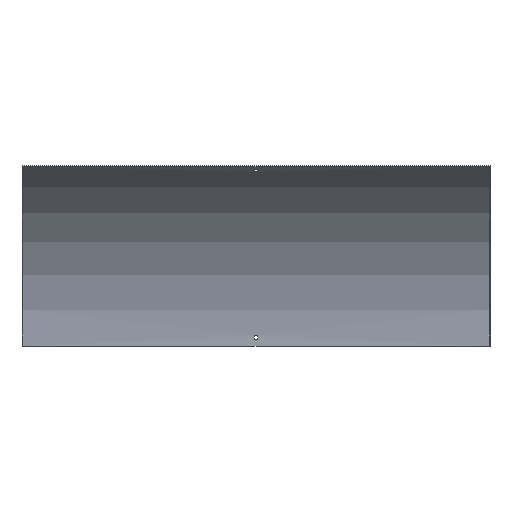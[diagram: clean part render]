
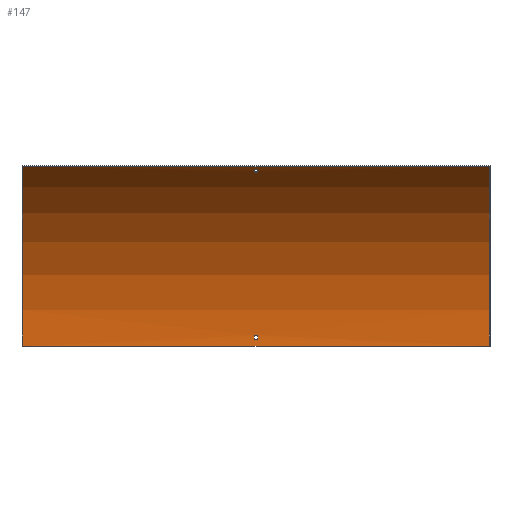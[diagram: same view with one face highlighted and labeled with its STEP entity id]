
A CAD part, front view. The second image highlights one B-rep face of the part: STEP entity #147.
In plain terms, the highlighted cylindrical face has radius 400 mm (diameter 800 mm), a partial arc.
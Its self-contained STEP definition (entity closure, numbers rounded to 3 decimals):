
#5 = EDGE_CURVE ( 'NONE', #208, #509, #144, .T. ) ;
#9 = EDGE_LOOP ( 'NONE', ( #471, #71, #175, #35 ) ) ;
#14 = EDGE_CURVE ( 'NONE', #507, #57, #248, .T. ) ;
#16 = EDGE_CURVE ( 'NONE', #316, #131, #286, .T. ) ;
#26 = DIRECTION ( 'NONE',  ( 0., 0., 1. ) ) ;
#32 = CARTESIAN_POINT ( 'NONE',  ( 451.5, -1.68, 12. ) ) ;
#35 = ORIENTED_EDGE ( 'NONE', *, *, #606, .T. ) ;
#41 = VERTEX_POINT ( 'NONE', #258 ) ;
#57 = VERTEX_POINT ( 'NONE', #296 ) ;
#64 = LINE ( 'NONE', #335, #578 ) ;
#66 = CARTESIAN_POINT ( 'NONE',  ( 3.25, -183.589, 335.432 ) ) ;
#70 = AXIS2_PLACEMENT_3D ( 'NONE', #528, #290, #427 ) ;
#71 = ORIENTED_EDGE ( 'NONE', *, *, #16, .F. ) ;
#73 = CARTESIAN_POINT ( 'NONE',  ( 3.25, -2.052, 21. ) ) ;
#77 = CARTESIAN_POINT ( 'NONE',  ( 3.25, -401.5, 0. ) ) ;
#91 = VECTOR ( 'NONE', #426, 1000. ) ;
#95 = DIRECTION ( 'NONE',  ( 0., 0., -1. ) ) ;
#100 = FACE_BOUND ( 'NONE', #565, .T. ) ;
#102 = EDGE_CURVE ( 'NONE', #515, #485, #64, .T. ) ;
#120 = AXIS2_PLACEMENT_3D ( 'NONE', #349, #453, #497 ) ;
#127 = CARTESIAN_POINT ( 'NONE',  ( -3.25, -191.198, 340.254 ) ) ;
#131 = VERTEX_POINT ( 'NONE', #577 ) ;
#132 = EDGE_CURVE ( 'NONE', #131, #262, #591, .T. ) ;
#138 = AXIS2_PLACEMENT_3D ( 'NONE', #167, #161, #256 ) ;
#144 = LINE ( 'NONE', #277, #356 ) ;
#147 = ADVANCED_FACE ( 'NONE', ( #516, #522, #100 ), #245, .F. ) ;
#153 = CARTESIAN_POINT ( 'NONE',  ( -450., -401.5, 0. ) ) ;
#160 = ORIENTED_EDGE ( 'NONE', *, *, #604, .F. ) ;
#161 = DIRECTION ( 'NONE',  ( 1., 0., 0. ) ) ;
#165 = EDGE_CURVE ( 'NONE', #41, #272, #482, .T. ) ;
#166 = ORIENTED_EDGE ( 'NONE', *, *, #102, .F. ) ;
#167 = CARTESIAN_POINT ( 'NONE',  ( -3.25, -401.5, 0. ) ) ;
#171 = AXIS2_PLACEMENT_3D ( 'NONE', #77, #341, #393 ) ;
#175 = ORIENTED_EDGE ( 'NONE', *, *, #303, .T. ) ;
#177 = EDGE_CURVE ( 'NONE', #509, #507, #374, .T. ) ;
#196 = DIRECTION ( 'NONE',  ( 1., 0., 0. ) ) ;
#198 = CARTESIAN_POINT ( 'NONE',  ( 450., -1.5, 0. ) ) ;
#207 = CARTESIAN_POINT ( 'NONE',  ( 3.25, -191.198, 340.254 ) ) ;
#208 = VERTEX_POINT ( 'NONE', #127 ) ;
#212 = EDGE_CURVE ( 'NONE', #485, #41, #494, .T. ) ;
#215 = EDGE_CURVE ( 'NONE', #57, #208, #444, .T. ) ;
#219 = CARTESIAN_POINT ( 'NONE',  ( 450., -201.5, 346.41 ) ) ;
#227 = ORIENTED_EDGE ( 'NONE', *, *, #14, .T. ) ;
#228 = VECTOR ( 'NONE', #352, 1000. ) ;
#231 = CARTESIAN_POINT ( 'NONE',  ( -450., -201.5, 346.41 ) ) ;
#237 = DIRECTION ( 'NONE',  ( 0., 0., -1. ) ) ;
#245 = CYLINDRICAL_SURFACE ( 'NONE', #70, 400. ) ;
#248 = LINE ( 'NONE', #559, #91 ) ;
#250 = DIRECTION ( 'NONE',  ( 1., 0., 0. ) ) ;
#256 = DIRECTION ( 'NONE',  ( 0., 1., 0. ) ) ;
#258 = CARTESIAN_POINT ( 'NONE',  ( -3.25, -1.68, 12. ) ) ;
#262 = VERTEX_POINT ( 'NONE', #231 ) ;
#268 = ORIENTED_EDGE ( 'NONE', *, *, #212, .F. ) ;
#272 = VERTEX_POINT ( 'NONE', #549 ) ;
#277 = CARTESIAN_POINT ( 'NONE',  ( 451.5, -191.198, 340.254 ) ) ;
#286 = LINE ( 'NONE', #198, #369 ) ;
#289 = DIRECTION ( 'NONE',  ( 1., 0., 0. ) ) ;
#290 = DIRECTION ( 'NONE',  ( -1., 0., 0. ) ) ;
#296 = CARTESIAN_POINT ( 'NONE',  ( -3.25, -183.589, 335.432 ) ) ;
#303 = EDGE_CURVE ( 'NONE', #316, #363, #484, .T. ) ;
#316 = VERTEX_POINT ( 'NONE', #477 ) ;
#326 = EDGE_LOOP ( 'NONE', ( #268, #166, #160, #359 ) ) ;
#335 = CARTESIAN_POINT ( 'NONE',  ( 451.5, -2.052, 21. ) ) ;
#341 = DIRECTION ( 'NONE',  ( 1., 0., 0. ) ) ;
#349 = CARTESIAN_POINT ( 'NONE',  ( -3.25, -401.5, 0. ) ) ;
#352 = DIRECTION ( 'NONE',  ( 1., 0., 0. ) ) ;
#354 = AXIS2_PLACEMENT_3D ( 'NONE', #514, #250, #95 ) ;
#356 = VECTOR ( 'NONE', #289, 1000. ) ;
#359 = ORIENTED_EDGE ( 'NONE', *, *, #165, .F. ) ;
#362 = ORIENTED_EDGE ( 'NONE', *, *, #177, .T. ) ;
#363 = VERTEX_POINT ( 'NONE', #555 ) ;
#369 = VECTOR ( 'NONE', #378, 1000. ) ;
#374 = CIRCLE ( 'NONE', #434, 400. ) ;
#378 = DIRECTION ( 'NONE',  ( -1., 0., 0. ) ) ;
#393 = DIRECTION ( 'NONE',  ( 0., 0., -1. ) ) ;
#396 = AXIS2_PLACEMENT_3D ( 'NONE', #153, #196, #237 ) ;
#397 = CARTESIAN_POINT ( 'NONE',  ( 3.25, -401.5, 0. ) ) ;
#402 = DIRECTION ( 'NONE',  ( -1., 0., 0. ) ) ;
#416 = ORIENTED_EDGE ( 'NONE', *, *, #215, .T. ) ;
#424 = CARTESIAN_POINT ( 'NONE',  ( -3.25, -2.052, 21. ) ) ;
#426 = DIRECTION ( 'NONE',  ( -1., 0., 0. ) ) ;
#427 = DIRECTION ( 'NONE',  ( 0., 0., 1. ) ) ;
#434 = AXIS2_PLACEMENT_3D ( 'NONE', #397, #500, #26 ) ;
#435 = DIRECTION ( 'NONE',  ( -1., 0., 0. ) ) ;
#444 = CIRCLE ( 'NONE', #138, 400. ) ;
#453 = DIRECTION ( 'NONE',  ( -1., 0., 0. ) ) ;
#468 = VECTOR ( 'NONE', #402, 1000. ) ;
#471 = ORIENTED_EDGE ( 'NONE', *, *, #132, .F. ) ;
#477 = CARTESIAN_POINT ( 'NONE',  ( 450., -1.5, 0. ) ) ;
#482 = LINE ( 'NONE', #32, #228 ) ;
#484 = CIRCLE ( 'NONE', #354, 400. ) ;
#485 = VERTEX_POINT ( 'NONE', #424 ) ;
#494 = CIRCLE ( 'NONE', #120, 400. ) ;
#496 = CIRCLE ( 'NONE', #171, 400. ) ;
#497 = DIRECTION ( 'NONE',  ( 0., 0., 1. ) ) ;
#500 = DIRECTION ( 'NONE',  ( -1., 0., 0. ) ) ;
#507 = VERTEX_POINT ( 'NONE', #66 ) ;
#509 = VERTEX_POINT ( 'NONE', #207 ) ;
#514 = CARTESIAN_POINT ( 'NONE',  ( 450., -401.5, 0. ) ) ;
#515 = VERTEX_POINT ( 'NONE', #73 ) ;
#516 = FACE_BOUND ( 'NONE', #326, .T. ) ;
#522 = FACE_OUTER_BOUND ( 'NONE', #9, .T. ) ;
#528 = CARTESIAN_POINT ( 'NONE',  ( 451.5, -401.5, 0. ) ) ;
#549 = CARTESIAN_POINT ( 'NONE',  ( 3.25, -1.68, 12. ) ) ;
#553 = ORIENTED_EDGE ( 'NONE', *, *, #5, .T. ) ;
#555 = CARTESIAN_POINT ( 'NONE',  ( 450., -201.5, 346.41 ) ) ;
#559 = CARTESIAN_POINT ( 'NONE',  ( 451.5, -183.589, 335.432 ) ) ;
#565 = EDGE_LOOP ( 'NONE', ( #227, #416, #553, #362 ) ) ;
#577 = CARTESIAN_POINT ( 'NONE',  ( -450., -1.5, 0. ) ) ;
#578 = VECTOR ( 'NONE', #435, 1000. ) ;
#587 = LINE ( 'NONE', #219, #468 ) ;
#591 = CIRCLE ( 'NONE', #396, 400. ) ;
#604 = EDGE_CURVE ( 'NONE', #272, #515, #496, .T. ) ;
#606 = EDGE_CURVE ( 'NONE', #363, #262, #587, .T. ) ;
